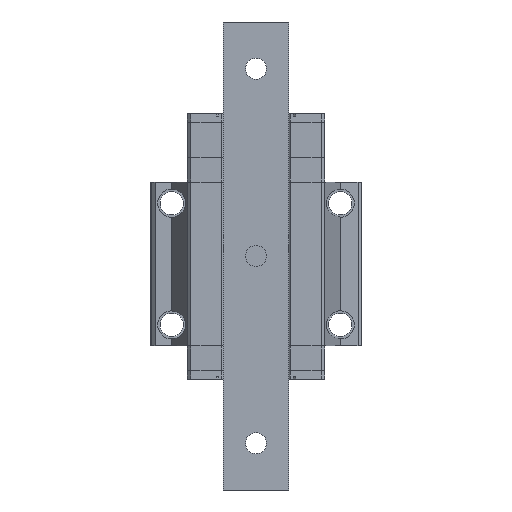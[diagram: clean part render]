
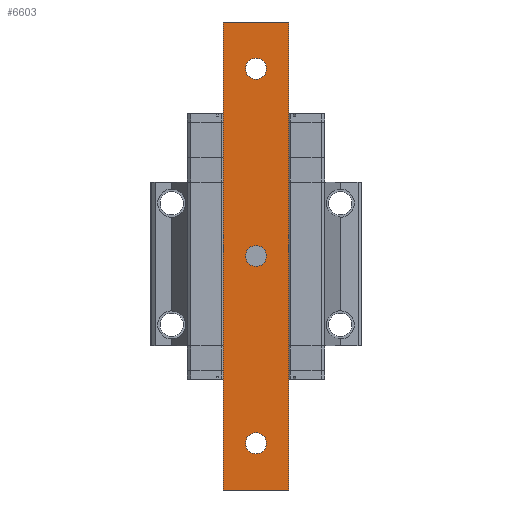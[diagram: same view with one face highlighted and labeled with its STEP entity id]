
A CAD part, front view. The second image highlights one B-rep face of the part: STEP entity #6603.
In plain terms, the highlighted planar face has unit normal (0, -1, 0).
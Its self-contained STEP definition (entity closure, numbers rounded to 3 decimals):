
#203 = CARTESIAN_POINT ( 'NONE',  ( 0., -5.5, 80. ) ) ;
#209 = EDGE_CURVE ( 'NONE', #29626, #19042, #20548, .T. ) ;
#687 = EDGE_CURVE ( 'NONE', #8212, #13494, #1563, .T. ) ;
#1256 = CARTESIAN_POINT ( 'NONE',  ( -14., -5.5, -100. ) ) ;
#1433 = CARTESIAN_POINT ( 'NONE',  ( 0., -5.5, -4.5 ) ) ;
#1563 = CIRCLE ( 'NONE', #24216, 4.5 ) ;
#1635 = VERTEX_POINT ( 'NONE', #4707 ) ;
#2242 = PLANE ( 'NONE',  #27107 ) ;
#2446 = EDGE_CURVE ( 'NONE', #29626, #28447, #27599, .T. ) ;
#2469 = CIRCLE ( 'NONE', #19263, 4.5 ) ;
#3751 = CARTESIAN_POINT ( 'NONE',  ( 0., -5.5, -80. ) ) ;
#4483 = AXIS2_PLACEMENT_3D ( 'NONE', #11245, #8867, #14017 ) ;
#4614 = DIRECTION ( 'NONE',  ( 0., 1., 0. ) ) ;
#4707 = CARTESIAN_POINT ( 'NONE',  ( 0., -5.5, -75.5 ) ) ;
#5413 = CIRCLE ( 'NONE', #15154, 4.5 ) ;
#5750 = EDGE_LOOP ( 'NONE', ( #7922, #31842 ) ) ;
#6271 = VECTOR ( 'NONE', #21251, 1000. ) ;
#6569 = AXIS2_PLACEMENT_3D ( 'NONE', #203, #9863, #7346 ) ;
#6603 = ADVANCED_FACE ( 'NONE', ( #24619, #18148, #30074, #10498 ), #2242, .T. ) ;
#6640 = CARTESIAN_POINT ( 'NONE',  ( 0., -5.5, -84.5 ) ) ;
#6685 = ORIENTED_EDGE ( 'NONE', *, *, #14921, .F. ) ;
#6993 = DIRECTION ( 'NONE',  ( 0., 0., 1. ) ) ;
#7231 = DIRECTION ( 'NONE',  ( 0., -1., 0. ) ) ;
#7346 = DIRECTION ( 'NONE',  ( 0., 0., 1. ) ) ;
#7922 = ORIENTED_EDGE ( 'NONE', *, *, #10546, .T. ) ;
#8069 = CARTESIAN_POINT ( 'NONE',  ( -14., -5.5, -100. ) ) ;
#8212 = VERTEX_POINT ( 'NONE', #14008 ) ;
#8500 = ORIENTED_EDGE ( 'NONE', *, *, #29189, .T. ) ;
#8514 = CARTESIAN_POINT ( 'NONE',  ( 14., -5.5, -100. ) ) ;
#8867 = DIRECTION ( 'NONE',  ( 0., 1., 0. ) ) ;
#9306 = LINE ( 'NONE', #31314, #28120 ) ;
#9863 = DIRECTION ( 'NONE',  ( 0., 1., 0. ) ) ;
#9995 = ORIENTED_EDGE ( 'NONE', *, *, #13053, .T. ) ;
#10269 = VERTEX_POINT ( 'NONE', #1433 ) ;
#10498 = FACE_OUTER_BOUND ( 'NONE', #13769, .T. ) ;
#10503 = CARTESIAN_POINT ( 'NONE',  ( 0., -5.5, 0. ) ) ;
#10546 = EDGE_CURVE ( 'NONE', #1635, #25162, #5413, .T. ) ;
#10798 = ORIENTED_EDGE ( 'NONE', *, *, #209, .F. ) ;
#11245 = CARTESIAN_POINT ( 'NONE',  ( 0., -5.5, 0. ) ) ;
#11265 = DIRECTION ( 'NONE',  ( 0., 0., 1. ) ) ;
#11370 = VERTEX_POINT ( 'NONE', #20137 ) ;
#12046 = LINE ( 'NONE', #24844, #31244 ) ;
#12532 = CIRCLE ( 'NONE', #21088, 4.5 ) ;
#12907 = ORIENTED_EDGE ( 'NONE', *, *, #17963, .T. ) ;
#13053 = EDGE_CURVE ( 'NONE', #29358, #10269, #2469, .T. ) ;
#13494 = VERTEX_POINT ( 'NONE', #13647 ) ;
#13647 = CARTESIAN_POINT ( 'NONE',  ( 0., -5.5, 75.5 ) ) ;
#13769 = EDGE_LOOP ( 'NONE', ( #12907, #6685, #10798, #29429 ) ) ;
#14008 = CARTESIAN_POINT ( 'NONE',  ( 0., -5.5, 84.5 ) ) ;
#14017 = DIRECTION ( 'NONE',  ( 0., 0., 1. ) ) ;
#14737 = CARTESIAN_POINT ( 'NONE',  ( -14., -5.5, 100. ) ) ;
#14921 = EDGE_CURVE ( 'NONE', #19042, #11370, #12046, .T. ) ;
#15154 = AXIS2_PLACEMENT_3D ( 'NONE', #18464, #23263, #20700 ) ;
#17963 = EDGE_CURVE ( 'NONE', #28447, #11370, #9306, .T. ) ;
#18148 = FACE_BOUND ( 'NONE', #24217, .T. ) ;
#18464 = CARTESIAN_POINT ( 'NONE',  ( 0., -5.5, -80. ) ) ;
#19042 = VERTEX_POINT ( 'NONE', #14737 ) ;
#19263 = AXIS2_PLACEMENT_3D ( 'NONE', #10503, #27641, #20435 ) ;
#19496 = CARTESIAN_POINT ( 'NONE',  ( -14., -5.5, -100. ) ) ;
#19529 = VECTOR ( 'NONE', #27253, 1000. ) ;
#19789 = EDGE_CURVE ( 'NONE', #25162, #1635, #12532, .T. ) ;
#20137 = CARTESIAN_POINT ( 'NONE',  ( 14., -5.5, 100. ) ) ;
#20435 = DIRECTION ( 'NONE',  ( 0., 0., 1. ) ) ;
#20548 = LINE ( 'NONE', #24140, #6271 ) ;
#20700 = DIRECTION ( 'NONE',  ( 0., 0., 1. ) ) ;
#21088 = AXIS2_PLACEMENT_3D ( 'NONE', #3751, #28004, #28849 ) ;
#21251 = DIRECTION ( 'NONE',  ( 0., 0., 1. ) ) ;
#22407 = CARTESIAN_POINT ( 'NONE',  ( 0., -5.5, 4.5 ) ) ;
#22820 = CIRCLE ( 'NONE', #4483, 4.5 ) ;
#23263 = DIRECTION ( 'NONE',  ( 0., 1., 0. ) ) ;
#23795 = EDGE_CURVE ( 'NONE', #13494, #8212, #29418, .T. ) ;
#23824 = ORIENTED_EDGE ( 'NONE', *, *, #687, .T. ) ;
#24140 = CARTESIAN_POINT ( 'NONE',  ( -14., -5.5, -100. ) ) ;
#24216 = AXIS2_PLACEMENT_3D ( 'NONE', #29163, #4614, #6993 ) ;
#24217 = EDGE_LOOP ( 'NONE', ( #9995, #8500 ) ) ;
#24401 = DIRECTION ( 'NONE',  ( 1., 0., 0. ) ) ;
#24619 = FACE_BOUND ( 'NONE', #5750, .T. ) ;
#24844 = CARTESIAN_POINT ( 'NONE',  ( -14., -5.5, 100. ) ) ;
#25162 = VERTEX_POINT ( 'NONE', #6640 ) ;
#25916 = ORIENTED_EDGE ( 'NONE', *, *, #23795, .T. ) ;
#27107 = AXIS2_PLACEMENT_3D ( 'NONE', #19496, #7231, #24401 ) ;
#27253 = DIRECTION ( 'NONE',  ( 1., 0., 0. ) ) ;
#27599 = LINE ( 'NONE', #8069, #19529 ) ;
#27641 = DIRECTION ( 'NONE',  ( 0., 1., 0. ) ) ;
#27654 = EDGE_LOOP ( 'NONE', ( #23824, #25916 ) ) ;
#28004 = DIRECTION ( 'NONE',  ( 0., 1., 0. ) ) ;
#28120 = VECTOR ( 'NONE', #11265, 1000. ) ;
#28447 = VERTEX_POINT ( 'NONE', #8514 ) ;
#28849 = DIRECTION ( 'NONE',  ( 0., 0., 1. ) ) ;
#29163 = CARTESIAN_POINT ( 'NONE',  ( 0., -5.5, 80. ) ) ;
#29189 = EDGE_CURVE ( 'NONE', #10269, #29358, #22820, .T. ) ;
#29358 = VERTEX_POINT ( 'NONE', #22407 ) ;
#29418 = CIRCLE ( 'NONE', #6569, 4.5 ) ;
#29429 = ORIENTED_EDGE ( 'NONE', *, *, #2446, .T. ) ;
#29626 = VERTEX_POINT ( 'NONE', #1256 ) ;
#30069 = DIRECTION ( 'NONE',  ( 1., 0., 0. ) ) ;
#30074 = FACE_BOUND ( 'NONE', #27654, .T. ) ;
#31244 = VECTOR ( 'NONE', #30069, 1000. ) ;
#31314 = CARTESIAN_POINT ( 'NONE',  ( 14., -5.5, -100. ) ) ;
#31842 = ORIENTED_EDGE ( 'NONE', *, *, #19789, .T. ) ;
